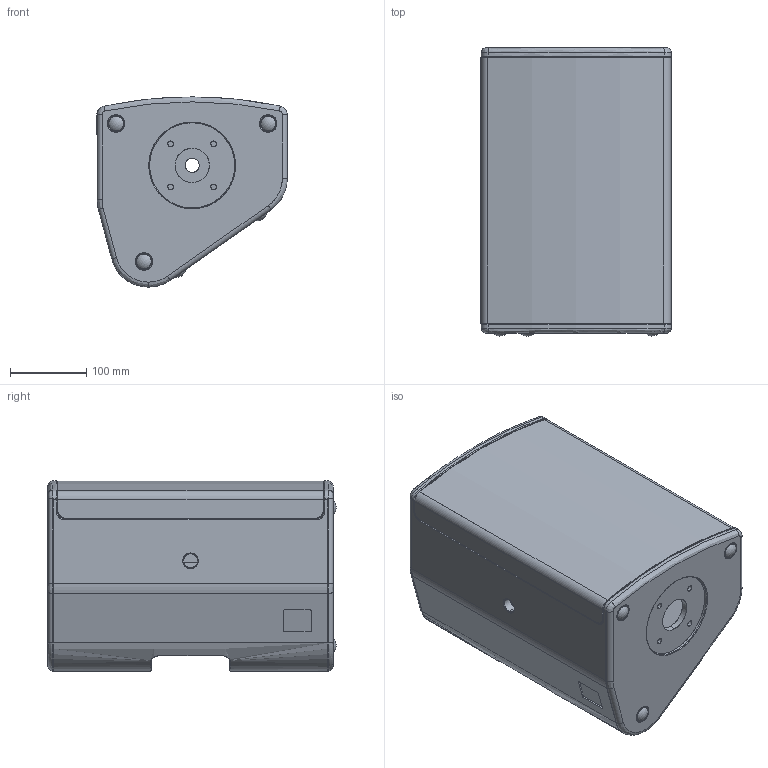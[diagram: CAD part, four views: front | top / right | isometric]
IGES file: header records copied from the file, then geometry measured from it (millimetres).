
Start section: SolidWorks IGES file using analytic representation for surfaces
Global section: file name: C:\Users\Michl\Documents\Michl\SolidWorks\X-Serie\3D-Dateien_Homepage\SEEBURG_X2.IGS; native system: SolidWorks 2009; preprocessor: SolidWorks 2009; author: Michl; date: 180920.102138; units: millimetre
Bounding box: 250.5 x 378.93 x 250 mm (x, y, z)
Surface area: 931410.1 mm2 (no closed solid volume)
Topology: 0 solids, 0 shells, 426 faces, 5417 edges, 5417 vertices
Faces by surface type: revolution 216, bspline 210
